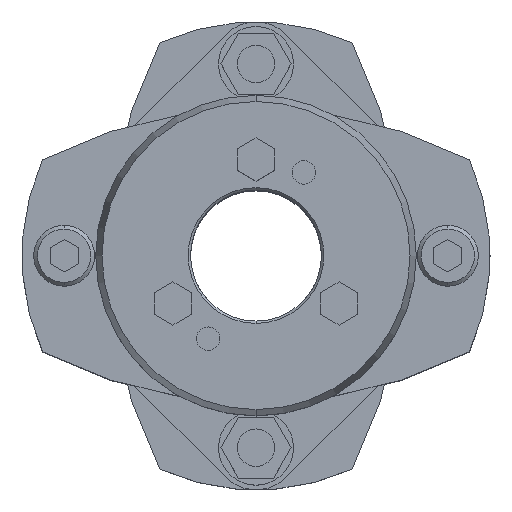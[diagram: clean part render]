
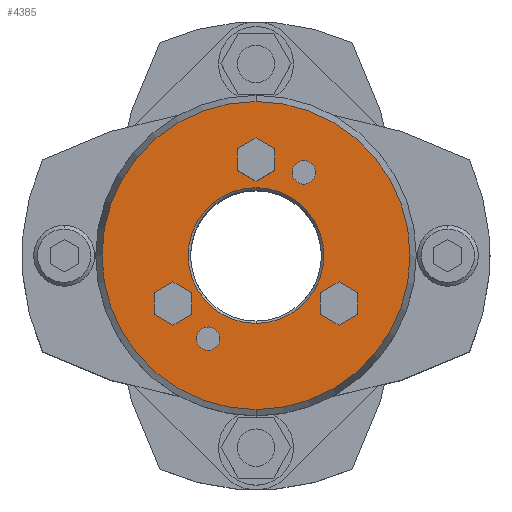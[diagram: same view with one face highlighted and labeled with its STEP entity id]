
A CAD part, top view. The second image highlights one B-rep face of the part: STEP entity #4385.
In plain terms, the highlighted planar face has unit normal (0, 0, 1).
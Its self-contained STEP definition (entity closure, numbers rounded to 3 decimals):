
#2291=CARTESIAN_POINT('',(0.,14.5,55.5));
#2292=VERTEX_POINT('',#2291);
#2308=CARTESIAN_POINT('',(0.,-14.5,55.5));
#2309=VERTEX_POINT('',#2308);
#2316=CARTESIAN_POINT('',(0.,0.,55.5));
#2317=DIRECTION('',(0.0,0.0,1.0));
#2318=DIRECTION('',(0.0,1.0,0.0));
#2319=AXIS2_PLACEMENT_3D('',#2316,#2317,#2318);
#2320=CIRCLE('',#2319,14.5);
#2321=EDGE_CURVE('',#2309,#2292,#2320,.T.);
#2479=CARTESIAN_POINT('',(0.,-32.91,55.5));
#2480=VERTEX_POINT('',#2479);
#2487=CARTESIAN_POINT('',(0.,32.91,55.5));
#2488=VERTEX_POINT('',#2487);
#2489=CARTESIAN_POINT('',(0.,0.,55.5));
#2490=DIRECTION('',(0.0,0.0,-1.0));
#2491=DIRECTION('',(0.0,-1.0,0.0));
#2492=AXIS2_PLACEMENT_3D('',#2489,#2490,#2491);
#2493=CIRCLE('',#2492,32.91);
#2494=EDGE_CURVE('',#2480,#2488,#2493,.T.);
#2737=CARTESIAN_POINT('',(-10.25,-15.254,55.5));
#2738=VERTEX_POINT('',#2737);
#2754=CARTESIAN_POINT('',(-10.25,-20.254,55.5));
#2755=VERTEX_POINT('',#2754);
#2762=CARTESIAN_POINT('',(-10.25,-17.754,55.5));
#2763=DIRECTION('',(0.0,0.0,-1.0));
#2764=DIRECTION('',(0.0,1.0,0.0));
#2765=AXIS2_PLACEMENT_3D('',#2762,#2763,#2764);
#2766=CIRCLE('',#2765,2.5);
#2767=EDGE_CURVE('',#2738,#2755,#2766,.T.);
#2779=CARTESIAN_POINT('',(10.25,20.254,55.5));
#2780=VERTEX_POINT('',#2779);
#2796=CARTESIAN_POINT('',(10.25,15.254,55.5));
#2797=VERTEX_POINT('',#2796);
#2804=CARTESIAN_POINT('',(10.25,17.754,55.5));
#2805=DIRECTION('',(0.0,0.0,-1.0));
#2806=DIRECTION('',(0.0,1.0,0.0));
#2807=AXIS2_PLACEMENT_3D('',#2804,#2805,#2806);
#2808=CIRCLE('',#2807,2.5);
#2809=EDGE_CURVE('',#2780,#2797,#2808,.T.);
#2892=CARTESIAN_POINT('',(10.25,17.754,55.5));
#2893=DIRECTION('',(0.0,0.0,-1.0));
#2894=DIRECTION('',(0.0,1.0,0.0));
#2895=AXIS2_PLACEMENT_3D('',#2892,#2893,#2894);
#2896=CIRCLE('',#2895,2.5);
#2897=EDGE_CURVE('',#2797,#2780,#2896,.T.);
#2926=CARTESIAN_POINT('',(-10.25,-17.754,55.5));
#2927=DIRECTION('',(0.0,0.0,-1.0));
#2928=DIRECTION('',(0.0,1.0,0.0));
#2929=AXIS2_PLACEMENT_3D('',#2926,#2927,#2928);
#2930=CIRCLE('',#2929,2.5);
#2931=EDGE_CURVE('',#2755,#2738,#2930,.T.);
#2969=CARTESIAN_POINT('',(17.754,-5.631,55.5));
#2970=VERTEX_POINT('',#2969);
#2977=CARTESIAN_POINT('',(13.754,-7.941,55.5));
#2978=VERTEX_POINT('',#2977);
#2979=CARTESIAN_POINT('',(13.754,-7.941,55.5));
#2980=DIRECTION('',(0.866,0.5,0.0));
#2981=VECTOR('',#2980,4.619);
#2982=LINE('',#2979,#2981);
#2983=EDGE_CURVE('',#2978,#2970,#2982,.T.);
#3007=CARTESIAN_POINT('',(21.754,-7.941,55.5));
#3008=VERTEX_POINT('',#3007);
#3015=CARTESIAN_POINT('',(17.754,-5.631,55.5));
#3016=DIRECTION('',(0.866,-0.5,0.0));
#3017=VECTOR('',#3016,4.619);
#3018=LINE('',#3015,#3017);
#3019=EDGE_CURVE('',#2970,#3008,#3018,.T.);
#3038=CARTESIAN_POINT('',(21.754,-12.559,55.5));
#3039=VERTEX_POINT('',#3038);
#3046=CARTESIAN_POINT('',(21.754,-7.941,55.5));
#3047=DIRECTION('',(0.0,-1.0,0.0));
#3048=VECTOR('',#3047,4.619);
#3049=LINE('',#3046,#3048);
#3050=EDGE_CURVE('',#3008,#3039,#3049,.T.);
#3069=CARTESIAN_POINT('',(17.754,-14.869,55.5));
#3070=VERTEX_POINT('',#3069);
#3077=CARTESIAN_POINT('',(21.754,-12.559,55.5));
#3078=DIRECTION('',(-0.866,-0.5,0.0));
#3079=VECTOR('',#3078,4.619);
#3080=LINE('',#3077,#3079);
#3081=EDGE_CURVE('',#3039,#3070,#3080,.T.);
#3100=CARTESIAN_POINT('',(13.754,-12.559,55.5));
#3101=VERTEX_POINT('',#3100);
#3108=CARTESIAN_POINT('',(17.754,-14.869,55.5));
#3109=DIRECTION('',(-0.866,0.5,0.0));
#3110=VECTOR('',#3109,4.619);
#3111=LINE('',#3108,#3110);
#3112=EDGE_CURVE('',#3070,#3101,#3111,.T.);
#3130=CARTESIAN_POINT('',(13.754,-12.559,55.5));
#3131=DIRECTION('',(0.0,1.0,0.0));
#3132=VECTOR('',#3131,4.619);
#3133=LINE('',#3130,#3132);
#3134=EDGE_CURVE('',#3101,#2978,#3133,.T.);
#3169=CARTESIAN_POINT('',(0.,25.119,55.5));
#3170=VERTEX_POINT('',#3169);
#3177=CARTESIAN_POINT('',(-4.,22.809,55.5));
#3178=VERTEX_POINT('',#3177);
#3179=CARTESIAN_POINT('',(-4.,22.809,55.5));
#3180=DIRECTION('',(0.866,0.5,0.0));
#3181=VECTOR('',#3180,4.619);
#3182=LINE('',#3179,#3181);
#3183=EDGE_CURVE('',#3178,#3170,#3182,.T.);
#3207=CARTESIAN_POINT('',(4.,22.809,55.5));
#3208=VERTEX_POINT('',#3207);
#3215=CARTESIAN_POINT('',(0.,25.119,55.5));
#3216=DIRECTION('',(0.866,-0.5,0.0));
#3217=VECTOR('',#3216,4.619);
#3218=LINE('',#3215,#3217);
#3219=EDGE_CURVE('',#3170,#3208,#3218,.T.);
#3238=CARTESIAN_POINT('',(4.,18.191,55.5));
#3239=VERTEX_POINT('',#3238);
#3246=CARTESIAN_POINT('',(4.,22.809,55.5));
#3247=DIRECTION('',(0.0,-1.0,0.0));
#3248=VECTOR('',#3247,4.619);
#3249=LINE('',#3246,#3248);
#3250=EDGE_CURVE('',#3208,#3239,#3249,.T.);
#3269=CARTESIAN_POINT('',(0.,15.881,55.5));
#3270=VERTEX_POINT('',#3269);
#3277=CARTESIAN_POINT('',(4.,18.191,55.5));
#3278=DIRECTION('',(-0.866,-0.5,0.0));
#3279=VECTOR('',#3278,4.619);
#3280=LINE('',#3277,#3279);
#3281=EDGE_CURVE('',#3239,#3270,#3280,.T.);
#3300=CARTESIAN_POINT('',(-4.,18.191,55.5));
#3301=VERTEX_POINT('',#3300);
#3308=CARTESIAN_POINT('',(0.,15.881,55.5));
#3309=DIRECTION('',(-0.866,0.5,0.0));
#3310=VECTOR('',#3309,4.619);
#3311=LINE('',#3308,#3310);
#3312=EDGE_CURVE('',#3270,#3301,#3311,.T.);
#3330=CARTESIAN_POINT('',(-4.,18.191,55.5));
#3331=DIRECTION('',(0.0,1.0,0.0));
#3332=VECTOR('',#3331,4.619);
#3333=LINE('',#3330,#3332);
#3334=EDGE_CURVE('',#3301,#3178,#3333,.T.);
#3369=CARTESIAN_POINT('',(-17.754,-5.631,55.5));
#3370=VERTEX_POINT('',#3369);
#3377=CARTESIAN_POINT('',(-21.754,-7.941,55.5));
#3378=VERTEX_POINT('',#3377);
#3379=CARTESIAN_POINT('',(-21.754,-7.941,55.5));
#3380=DIRECTION('',(0.866,0.5,0.0));
#3381=VECTOR('',#3380,4.619);
#3382=LINE('',#3379,#3381);
#3383=EDGE_CURVE('',#3378,#3370,#3382,.T.);
#3407=CARTESIAN_POINT('',(-13.754,-7.941,55.5));
#3408=VERTEX_POINT('',#3407);
#3415=CARTESIAN_POINT('',(-17.754,-5.631,55.5));
#3416=DIRECTION('',(0.866,-0.5,0.0));
#3417=VECTOR('',#3416,4.619);
#3418=LINE('',#3415,#3417);
#3419=EDGE_CURVE('',#3370,#3408,#3418,.T.);
#3438=CARTESIAN_POINT('',(-13.754,-12.559,55.5));
#3439=VERTEX_POINT('',#3438);
#3446=CARTESIAN_POINT('',(-13.754,-7.941,55.5));
#3447=DIRECTION('',(0.0,-1.0,0.0));
#3448=VECTOR('',#3447,4.619);
#3449=LINE('',#3446,#3448);
#3450=EDGE_CURVE('',#3408,#3439,#3449,.T.);
#3469=CARTESIAN_POINT('',(-17.754,-14.869,55.5));
#3470=VERTEX_POINT('',#3469);
#3477=CARTESIAN_POINT('',(-13.754,-12.559,55.5));
#3478=DIRECTION('',(-0.866,-0.5,0.0));
#3479=VECTOR('',#3478,4.619);
#3480=LINE('',#3477,#3479);
#3481=EDGE_CURVE('',#3439,#3470,#3480,.T.);
#3500=CARTESIAN_POINT('',(-21.754,-12.559,55.5));
#3501=VERTEX_POINT('',#3500);
#3508=CARTESIAN_POINT('',(-17.754,-14.869,55.5));
#3509=DIRECTION('',(-0.866,0.5,0.0));
#3510=VECTOR('',#3509,4.619);
#3511=LINE('',#3508,#3510);
#3512=EDGE_CURVE('',#3470,#3501,#3511,.T.);
#3530=CARTESIAN_POINT('',(-21.754,-12.559,55.5));
#3531=DIRECTION('',(0.0,1.0,0.0));
#3532=VECTOR('',#3531,4.619);
#3533=LINE('',#3530,#3532);
#3534=EDGE_CURVE('',#3501,#3378,#3533,.T.);
#4324=CARTESIAN_POINT('',(0.,0.,55.5));
#4325=DIRECTION('',(0.0,0.0,-1.0));
#4326=DIRECTION('',(0.0,-1.0,0.0));
#4327=AXIS2_PLACEMENT_3D('',#4324,#4325,#4326);
#4328=CIRCLE('',#4327,32.91);
#4329=EDGE_CURVE('',#2488,#2480,#4328,.T.);
#4334=CARTESIAN_POINT('',(0.,3.114,55.5));
#4335=DIRECTION('',(0.0,0.0,1.0));
#4336=DIRECTION('',(0.0,1.0,0.0));
#4337=AXIS2_PLACEMENT_3D('',#4334,#4335,#4336);
#4338=PLANE('',#4337);
#4339=ORIENTED_EDGE('',*,*,#4329,.F.);
#4340=ORIENTED_EDGE('',*,*,#2494,.F.);
#4341=EDGE_LOOP('',(#4339,#4340));
#4342=FACE_OUTER_BOUND('',#4341,.T.);
#4343=ORIENTED_EDGE('',*,*,#2809,.T.);
#4344=ORIENTED_EDGE('',*,*,#2897,.T.);
#4345=EDGE_LOOP('',(#4343,#4344));
#4346=FACE_BOUND('',#4345,.T.);
#4347=ORIENTED_EDGE('',*,*,#2767,.T.);
#4348=ORIENTED_EDGE('',*,*,#2931,.T.);
#4349=EDGE_LOOP('',(#4347,#4348));
#4350=FACE_BOUND('',#4349,.T.);
#4351=ORIENTED_EDGE('',*,*,#2983,.T.);
#4352=ORIENTED_EDGE('',*,*,#3019,.T.);
#4353=ORIENTED_EDGE('',*,*,#3050,.T.);
#4354=ORIENTED_EDGE('',*,*,#3081,.T.);
#4355=ORIENTED_EDGE('',*,*,#3112,.T.);
#4356=ORIENTED_EDGE('',*,*,#3134,.T.);
#4357=EDGE_LOOP('',(#4351,#4352,#4353,#4354,#4355,#4356));
#4358=FACE_BOUND('',#4357,.T.);
#4359=ORIENTED_EDGE('',*,*,#3183,.T.);
#4360=ORIENTED_EDGE('',*,*,#3219,.T.);
#4361=ORIENTED_EDGE('',*,*,#3250,.T.);
#4362=ORIENTED_EDGE('',*,*,#3281,.T.);
#4363=ORIENTED_EDGE('',*,*,#3312,.T.);
#4364=ORIENTED_EDGE('',*,*,#3334,.T.);
#4365=EDGE_LOOP('',(#4359,#4360,#4361,#4362,#4363,#4364));
#4366=FACE_BOUND('',#4365,.T.);
#4367=ORIENTED_EDGE('',*,*,#3383,.T.);
#4368=ORIENTED_EDGE('',*,*,#3419,.T.);
#4369=ORIENTED_EDGE('',*,*,#3450,.T.);
#4370=ORIENTED_EDGE('',*,*,#3481,.T.);
#4371=ORIENTED_EDGE('',*,*,#3512,.T.);
#4372=ORIENTED_EDGE('',*,*,#3534,.T.);
#4373=EDGE_LOOP('',(#4367,#4368,#4369,#4370,#4371,#4372));
#4374=FACE_BOUND('',#4373,.T.);
#4375=ORIENTED_EDGE('',*,*,#2321,.F.);
#4376=CARTESIAN_POINT('',(0.,0.,55.5));
#4377=DIRECTION('',(0.0,0.0,1.0));
#4378=DIRECTION('',(0.0,1.0,0.0));
#4379=AXIS2_PLACEMENT_3D('',#4376,#4377,#4378);
#4380=CIRCLE('',#4379,14.5);
#4381=EDGE_CURVE('',#2292,#2309,#4380,.T.);
#4382=ORIENTED_EDGE('',*,*,#4381,.F.);
#4383=EDGE_LOOP('',(#4375,#4382));
#4384=FACE_BOUND('',#4383,.T.);
#4385=ADVANCED_FACE('',(#4342,#4346,#4350,#4358,#4366,#4374,#4384),#4338,.T.);
